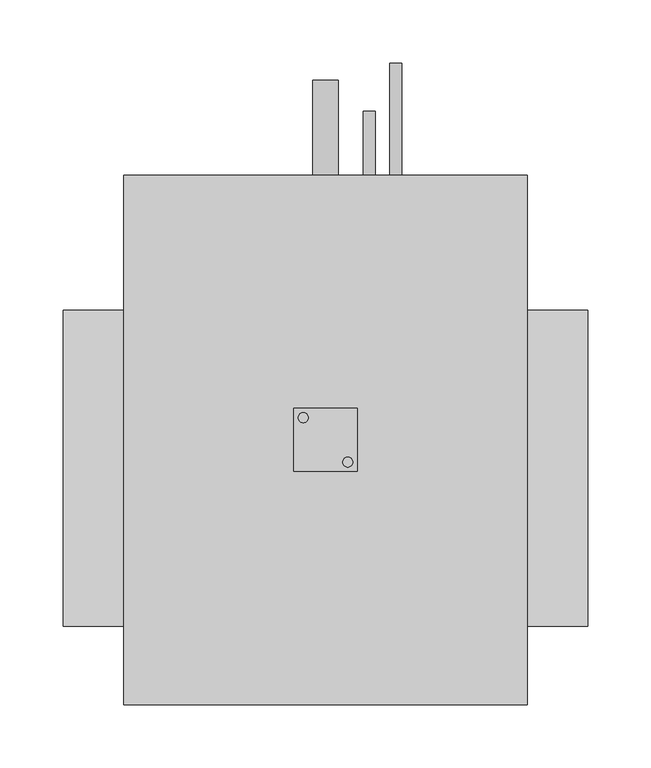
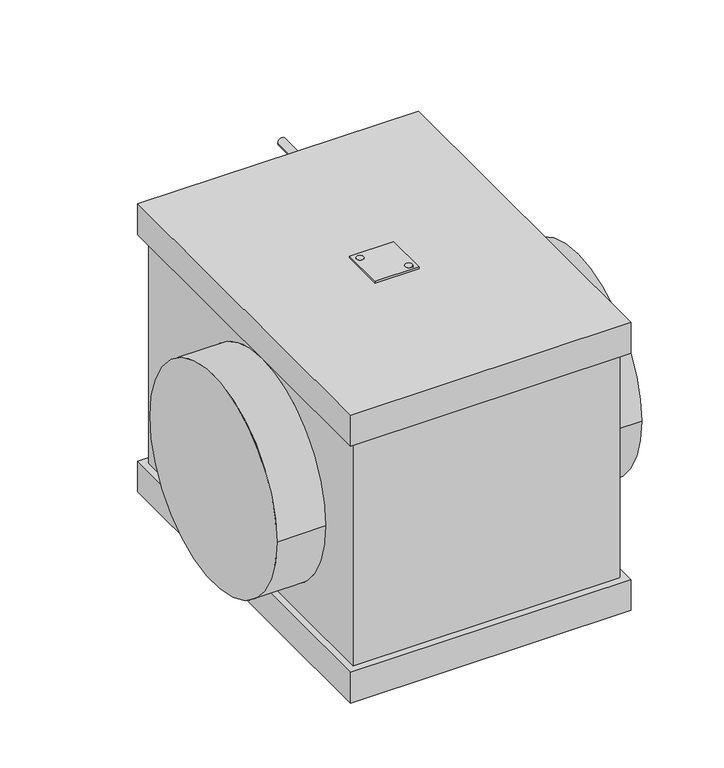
"""IFC4 building model written with IfcOpenShell, lengths in millimetres: proxy geometry, KORF_Охладитель_Фреоновый_Круглый_Правый_KFLO : KFLO 250/2."""

from ifc_helpers import new_model, si_unit, point, frame, frame_2d, origin, place, context, project, spatial, polyline, circle_curve, trimmed, segment, composite_curve, outline, extrude, source, transform, mapped, element, save
from ifc_brep_helpers import plane_surface, cylinder_surface, advanced_brep


def mechanical_equipment_c953ac83(model_context):
    return source(origin(), model_context, "Body", "SolidModel", [
        extrude(outline(composite_curve([segment(trimmed(circle_curve(frame_2d((189.9272934, 40.0745746)), 4.0), [point((185.9272934, 40.0745746))], [point((193.9272934, 40.0745746))], False, "CARTESIAN"), True, "CONTINUOUS"), segment(trimmed(circle_curve(frame_2d((189.9272934, 40.0745746)), 4.0), [point((193.9272934, 40.0745746))], [point((185.9272934, 40.0745746))], False, "CARTESIAN"), True, "CONTINUOUS")], self_intersect=False)), frame((0.0, 0.0, 173.0), z_axis=(0.0, 0.0, 1.0), x_axis=(1.0, 0.0, 0.0)), (0.0, 0.0, 1.0), 2.0),
        extrude(outline(composite_curve([segment(trimmed(circle_curve(frame_2d((225.0727066, 4.9254254)), 4.0), [point((229.0727066, 4.9254254))], [point((221.0727066, 4.9254254))], False, "CARTESIAN"), True, "CONTINUOUS"), segment(trimmed(circle_curve(frame_2d((225.0727066, 4.9254254)), 4.0), [point((221.0727066, 4.9254254))], [point((229.0727066, 4.9254254))], False, "CARTESIAN"), True, "CONTINUOUS")], self_intersect=False)), frame((0.0, 0.0, 173.0), z_axis=(0.0, 0.0, 1.0), x_axis=(1.0, 0.0, 0.0)), (0.0, 0.0, 1.0), 2.0),
        extrude(outline(polyline([(232.5, 47.5), (232.5, -2.5), (182.5, -2.5), (182.5, 47.5), (232.5, 47.5)]), holes=[composite_curve([segment(trimmed(circle_curve(frame_2d((189.9272934, 40.0745746)), 4.0), [point((185.9272934, 40.0745746))], [point((193.9272934, 40.0745746))], True, "CARTESIAN"), True, "CONTINUOUS"), segment(trimmed(circle_curve(frame_2d((189.9272934, 40.0745746)), 4.0), [point((193.9272934, 40.0745746))], [point((185.9272934, 40.0745746))], True, "CARTESIAN"), True, "CONTINUOUS")], self_intersect=False), composite_curve([segment(trimmed(circle_curve(frame_2d((225.0727066, 4.9254254)), 4.0), [point((229.0727066, 4.9254254))], [point((221.0727066, 4.9254254))], True, "CARTESIAN"), True, "CONTINUOUS"), segment(trimmed(circle_curve(frame_2d((225.0727066, 4.9254254)), 4.0), [point((221.0727066, 4.9254254))], [point((229.0727066, 4.9254254))], True, "CARTESIAN"), True, "CONTINUOUS")], self_intersect=False)]), frame((0.0, 0.0, 173.0), z_axis=(0.0, 0.0, 1.0), x_axis=(1.0, 0.0, 0.0)), (0.0, 0.0, 1.0), 2.0),
        advanced_brep(
        [(415.0, -125.0, 0.0), (415.0, 125.0, 0.0), (0.0, -125.0, 0.0), (0.0, 125.0, 0.0), (359.5, -125.0, 0.0), (359.5, 125.0, 0.0), (55.5, 125.0, 0.0), (55.5, -125.0, 0.0), (359.5, -178.5, -136.0), (359.5, 223.5, -136.0), (359.5, 223.5, 136.0), (359.5, -178.5, 136.0), (55.5, 223.5, -136.0), (55.5, -178.5, -136.0), (55.5, -178.5, 136.0), (55.5, 223.5, 136.0), (358.5, -178.5, -136.0), (358.5, -178.5, 136.0), (56.5, -178.5, 136.0), (56.5, -178.5, -136.0), (367.0, 232.0, -173.0), (367.0, -187.0, -173.0), (48.0, -187.0, -173.0), (48.0, 232.0, -173.0), (358.5, 223.5, -136.0), (56.5, 223.5, -136.0), (56.5, 223.5, 136.0), (358.5, 223.5, 136.0), (367.0, -187.0, 173.0), (367.0, 232.0, 173.0), (48.0, 232.0, 173.0), (48.0, -187.0, 173.0), (367.0, 232.0, -136.0), (367.0, -187.0, -136.0), (48.0, -187.0, -136.0), (48.0, 232.0, -136.0), (367.0, 232.0, 136.0), (367.0, -187.0, 136.0), (48.0, -187.0, 136.0), (48.0, 232.0, 136.0)],
        [
            (0, 1, circle_curve(frame((415.0, 0.0, 0.0), z_axis=(1.0, 0.0, 0.0), x_axis=(0.0, 1.0, 0.0)), 125.0)),
            (1, 0, circle_curve(frame((415.0, 0.0, 0.0), z_axis=(1.0, 0.0, 0.0), x_axis=(0.0, 1.0, 0.0)), 125.0)),
            (2, 3, circle_curve(frame((0.0, 0.0, 0.0), z_axis=(-1.0, 0.0, 0.0), x_axis=(0.0, 1.0, 0.0)), 125.0)),
            (3, 2, circle_curve(frame((0.0, 0.0, 0.0), z_axis=(-1.0, 0.0, 0.0), x_axis=(0.0, 1.0, 0.0)), 125.0)),
            (0, 4),
            (4, 5, circle_curve(frame((359.5, 0.0, 0.0), z_axis=(1.0, 0.0, 0.0), x_axis=(0.0, 1.0, 0.0)), 125.0)),
            (5, 1),
            (3, 6),
            (6, 7, circle_curve(frame((55.5, 0.0, 0.0), z_axis=(-1.0, 0.0, 0.0), x_axis=(0.0, 1.0, 0.0)), 125.0)),
            (7, 2),
            (5, 4, circle_curve(frame((359.5, 0.0, 0.0), z_axis=(1.0, 0.0, 0.0), x_axis=(0.0, 1.0, 0.0)), 125.0)),
            (7, 6, circle_curve(frame((55.5, 0.0, 0.0), z_axis=(-1.0, 0.0, 0.0), x_axis=(0.0, 1.0, 0.0)), 125.0)),
            (8, 9),
            (9, 10),
            (10, 11),
            (11, 8),
            (12, 13),
            (13, 14),
            (14, 15),
            (15, 12),
            (16, 8),
            (11, 17),
            (17, 18),
            (18, 14),
            (13, 19),
            (19, 16),
            (20, 21),
            (21, 22),
            (22, 23),
            (23, 20),
            (9, 24),
            (24, 25),
            (25, 12),
            (15, 26),
            (26, 27),
            (27, 10),
            (28, 29),
            (29, 30),
            (30, 31),
            (31, 28),
            (20, 32),
            (32, 33),
            (33, 21),
            (33, 34),
            (34, 22),
            (34, 35),
            (35, 23),
            (32, 35),
            (36, 29),
            (28, 37),
            (37, 36),
            (31, 38),
            (38, 37),
            (30, 39),
            (39, 38),
            (36, 39),
        ],
        [
            plane_surface(frame((415.0, 125.0, 0.0), z_axis=(1.0, 0.0, 0.0), x_axis=(0.0, 0.0, 1.0))),
            plane_surface(frame((0.0, 125.0, 0.0), z_axis=(-1.0, 0.0, 0.0), x_axis=(0.0, 0.0, -1.0))),
            cylinder_surface(frame((0.0, 0.0, 0.0), z_axis=(1.0, 0.0, 0.0), x_axis=(0.0, 1.0, 0.0)), 125.0),
            plane_surface(frame((359.5, -178.5, 173.0), z_axis=(1.0, 0.0, 0.0), x_axis=(0.0, 0.0, -1.0))),
            plane_surface(frame((55.5, -178.5, 173.0), z_axis=(-1.0, 0.0, 0.0), x_axis=(0.0, 0.0, 1.0))),
            plane_surface(frame((359.5, -178.5, 173.0), z_axis=(0.0, -1.0, 0.0), x_axis=(-1.0, 0.0, 0.0))),
            plane_surface(frame((359.5, -178.5, -173.0), z_axis=(0.0, 0.0, -1.0), x_axis=(-1.0, 0.0, 0.0))),
            plane_surface(frame((359.5, 223.5, -173.0), z_axis=(0.0, 1.0, 0.0), x_axis=(-1.0, 0.0, 0.0))),
            plane_surface(frame((359.5, 223.5, 173.0), z_axis=(0.0, 0.0, 1.0), x_axis=(-1.0, 0.0, 0.0))),
            plane_surface(frame((367.0, 232.0, -136.0), z_axis=(1.0, 0.0, 0.0), x_axis=(0.0, -1.0, 0.0))),
            plane_surface(frame((367.0, -187.0, -136.0), z_axis=(0.0, -1.0, 0.0), x_axis=(-1.0, 0.0, 0.0))),
            plane_surface(frame((48.0, -187.0, -136.0), z_axis=(-1.0, 0.0, 0.0), x_axis=(0.0, 1.0, 0.0))),
            plane_surface(frame((56.5, 223.5, -136.0), z_axis=(0.0, 0.0, 1.0), x_axis=(1.0, 0.0, 0.0))),
            plane_surface(frame((48.0, 232.0, -136.0), z_axis=(0.0, 1.0, 0.0), x_axis=(1.0, 0.0, 0.0))),
            plane_surface(frame((367.0, 232.0, 173.0), z_axis=(1.0, 0.0, 0.0), x_axis=(0.0, -1.0, 0.0))),
            plane_surface(frame((367.0, -187.0, 173.0), z_axis=(0.0, -1.0, 0.0), x_axis=(-1.0, 0.0, 0.0))),
            plane_surface(frame((48.0, -187.0, 173.0), z_axis=(-1.0, 0.0, 0.0), x_axis=(0.0, 1.0, 0.0))),
            plane_surface(frame((48.0, 232.0, 173.0), z_axis=(0.0, 1.0, 0.0), x_axis=(1.0, 0.0, 0.0))),
            plane_surface(frame((48.0, 232.0, 136.0), z_axis=(0.0, 0.0, -1.0), x_axis=(1.0, 0.0, 0.0))),
        ],
        [
            (0, [[1, 2]]),
            (1, [[3, 4]]),
            (2, [[-1, 5, 6, 7]]),
            (2, [[-4, 8, 9, 10]]),
            (2, [[-2, -7, 11, -5]]),
            (2, [[-3, -10, 12, -8]]),
            (3, [[13, 14, 15, 16], [-6, -11]]),
            (4, [[17, 18, 19, 20], [-9, -12]]),
            (5, [[21, -16, 22, 23, 24, -18, 25, 26]]),
            (6, [[27, 28, 29, 30]]),
            (7, [[31, 32, 33, -20, 34, 35, 36, -14]]),
            (8, [[37, 38, 39, 40]]),
            (9, [[41, 42, 43, -27]]),
            (10, [[-43, 44, 45, -28]]),
            (11, [[-45, 46, 47, -29]]),
            (12, [[-42, 48, -46, -44], [-13, -21, -26, -25, -17, -33, -32, -31]]),
            (13, [[-41, -30, -47, -48]]),
            (14, [[49, -37, 50, 51]]),
            (15, [[-50, -40, 52, 53]]),
            (16, [[-52, -39, 54, 55]]),
            (17, [[-49, 56, -54, -38]]),
            (18, [[-51, -53, -55, -56], [-15, -36, -35, -34, -19, -24, -23, -22]]),
        ],
    ),
        extrude(outline(composite_curve([segment(trimmed(circle_curve(frame_2d((-119.0, 242.0)), 4.76), [point((-119.0, 237.24))], [point((-119.0, 246.76))], False, "CARTESIAN"), True, "CONTINUOUS"), segment(trimmed(circle_curve(frame_2d((-119.0, 242.0)), 4.76), [point((-119.0, 246.76))], [point((-119.0, 237.24))], False, "CARTESIAN"), True, "CONTINUOUS")], self_intersect=False)), frame((0.0, 223.5, 0.0), z_axis=(0.0, 1.0, 0.0), x_axis=(0.0, 0.0, 1.0)), (0.0, 0.0, 1.0), 59.0),
        extrude(outline(composite_curve([segment(trimmed(circle_curve(frame_2d((119.0, 263.0)), 4.76), [point((119.0, 258.24))], [point((119.0, 267.76))], False, "CARTESIAN"), True, "CONTINUOUS"), segment(trimmed(circle_curve(frame_2d((119.0, 263.0)), 4.76), [point((119.0, 267.76))], [point((119.0, 258.24))], False, "CARTESIAN"), True, "CONTINUOUS")], self_intersect=False)), frame((0.0, 223.5, 0.0), z_axis=(0.0, 1.0, 0.0), x_axis=(0.0, 0.0, 1.0)), (0.0, 0.0, 1.0), 97.0),
        extrude(outline(composite_curve([segment(trimmed(circle_curve(frame_2d((-154.0, 207.5)), 10.0), [point((-154.0, 197.5))], [point((-154.0, 217.5))], False, "CARTESIAN"), True, "CONTINUOUS"), segment(trimmed(circle_curve(frame_2d((-154.0, 207.5)), 10.0), [point((-154.0, 217.5))], [point((-154.0, 197.5))], False, "CARTESIAN"), True, "CONTINUOUS")], self_intersect=False)), frame((0.0, 232.0, 0.0), z_axis=(0.0, 1.0, 0.0), x_axis=(0.0, 0.0, 1.0)), (0.0, 0.0, 1.0), 75.0),
    ])


if __name__ == "__main__":
    model = new_model("IFC4")
    model_context = context("Model", 3, world=origin())
    ifc_project = project(units=[si_unit("LENGTHUNIT", "METRE", prefix="MILLI")], contexts=[model_context])
    site = spatial("IfcSite", under=ifc_project)
    building = spatial("IfcBuilding", under=site)
    placement = place(None, origin())
    mechanical_equipment_shape = mechanical_equipment_c953ac83(model_context)
    element("IfcBuildingElementProxy", 1, Name="KORF_Охладитель_Фреоновый_Круглый_Правый_KFLO : KFLO 250/2", ObjectType="KORF_Охладитель_Фреоновый_Круглый_Правый_KFLO : KFLO 250/2", at=placement, inside=building, context=model_context, shape_type="MappedRepresentation", body=[
        mapped(mechanical_equipment_shape, transform((0.0, 0.0, 0.0), x_axis=(1.0, 0.0, 0.0), y_axis=(0.0, 1.0, 0.0), z_axis=(0.0, 0.0, 1.0))),
    ])
    save(model, "model.ifc")
